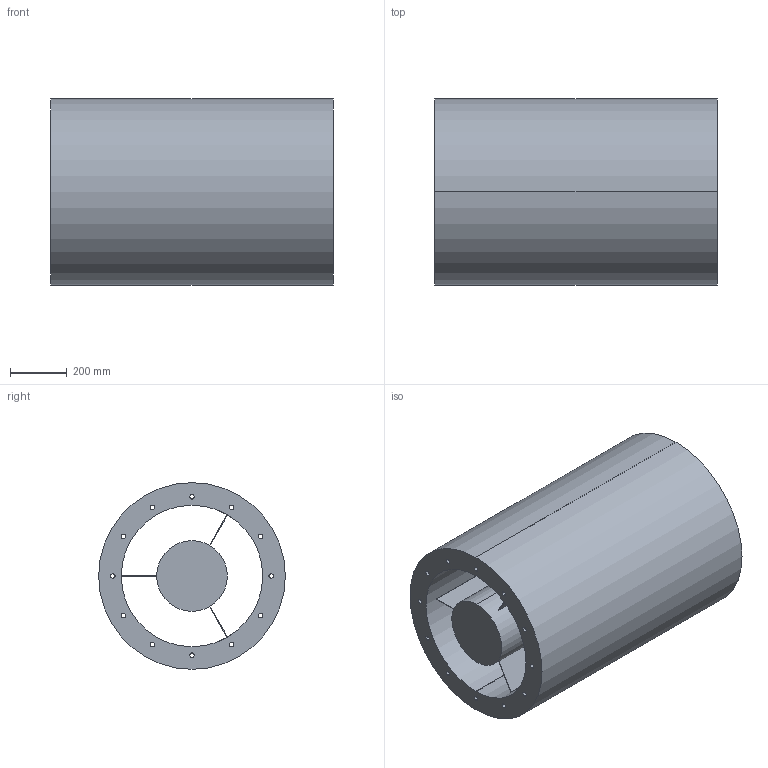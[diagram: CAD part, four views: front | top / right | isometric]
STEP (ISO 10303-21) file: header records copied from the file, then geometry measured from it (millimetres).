
FILE_DESCRIPTION(('STEP AP214'),'1');
FILE_NAME('accessory_5211814100.stp','2017-10-09T11:37:10',('TraceParts'),('TraceParts S.A.'),'Spatial InterOp 3D',' ',' ');
FILE_SCHEMA(('automotive_design'));
Length unit declared in the file: millimetre
Products named in the file (1): accessory_5211814100
Bounding box: 1000 x 660 x 660 mm (x, y, z)
Volume: 188404360.5 mm3; surface area: 5900877.3 mm2
Topology: 1 solids, 1 shells, 48 faces, 131 edges, 87 vertices
Faces by surface type: cylinder 30, plane 16, torus 2
Entity records: 2024 total; most frequent: DIRECTION 306, CARTESIAN_POINT 267, ORIENTED_EDGE 262, EDGE_CURVE 131, AXIS2_PLACEMENT_3D 126, VERTEX_POINT 87, EDGE_LOOP 80, CIRCLE 77
